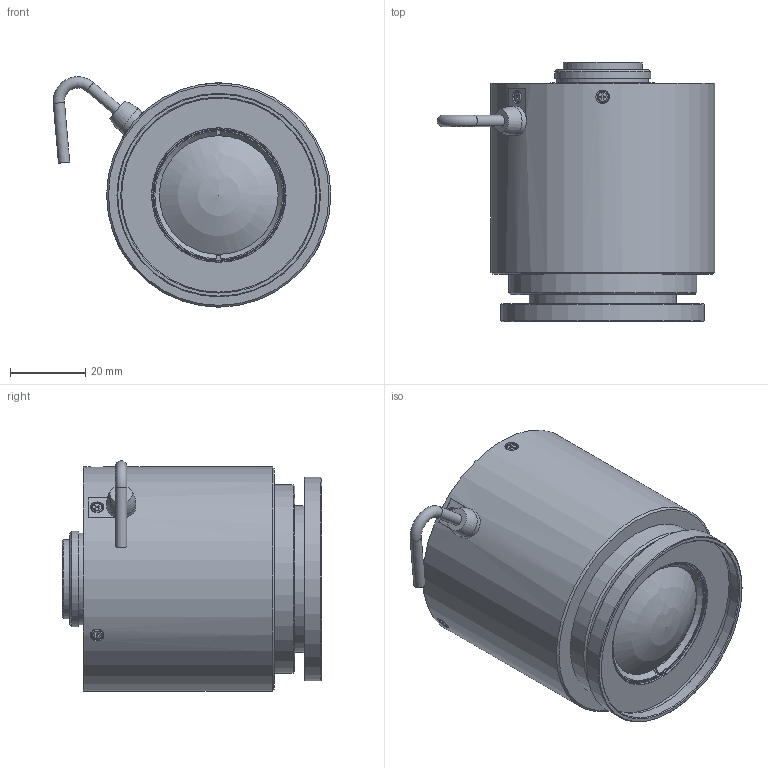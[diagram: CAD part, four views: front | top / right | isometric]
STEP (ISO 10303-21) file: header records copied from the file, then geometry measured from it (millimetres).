
FILE_DESCRIPTION(/* description */ ('Unknown'),/* implementation_level */ '2;1');
FILE_NAME(/* name */ 'Reference 3D-drawing of DL0828UC-MPY (Confidential_Tentative)_211014',/* time_stamp */ '2021-10-14T10:21:55+09:00',/* author */ ('Unknown'),/* organization */ ('Unknown'),/* preprocessor_version */ 'ST-DEVELOPER v16.7',/* originating_system */ 'DEX',/* authorisation */ $);
FILE_SCHEMA (('AUTOMOTIVE_DESIGN {1 0 10303 214 3 1 1}'));
Length unit declared in the file: millimetre
Products named in the file (1): DL0828UC-MPY
Bounding box: 73.69 x 68.83 x 61.13 mm (x, y, z)
Volume: 159513.3 mm3; surface area: 21205.1 mm2
Topology: 1 solids, 6 shells, 286 faces, 680 edges, 446 vertices
Faces by surface type: plane 196, cylinder 55, cone 23, torus 10, sphere 2
Full cylindrical faces by diameter (mm): 1 x2, 2 x4, 2.2 x4, 3 x10, 3.6 x4, 3.8 x4, 7.699 x1, 13 x1, 13.574 x1, 21 x1, 24.3 x1, 25.4 x1, 29 x1, 31.5 x1, 35.6 x1, 39 x1, 50 x1, 51.5 x1, 52 x1, 54 x1, 59.5 x1
Entity records: 9760 total; most frequent: CARTESIAN_POINT 1439, DIRECTION 1267, ORIENTED_EDGE 1170, EDGE_CURVE 585, LINE 437, VECTOR 437, VERTEX_POINT 429, AXIS2_PLACEMENT_3D 415
